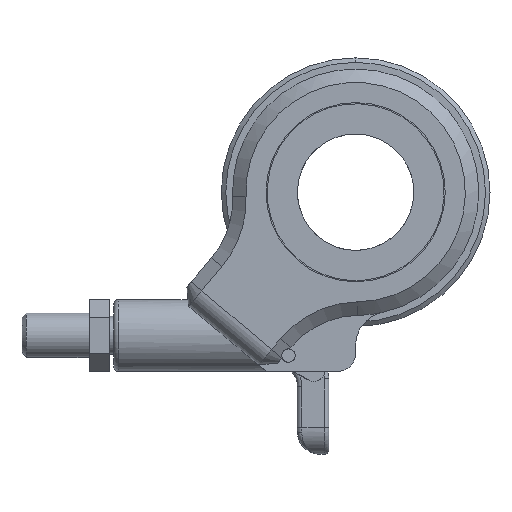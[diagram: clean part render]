
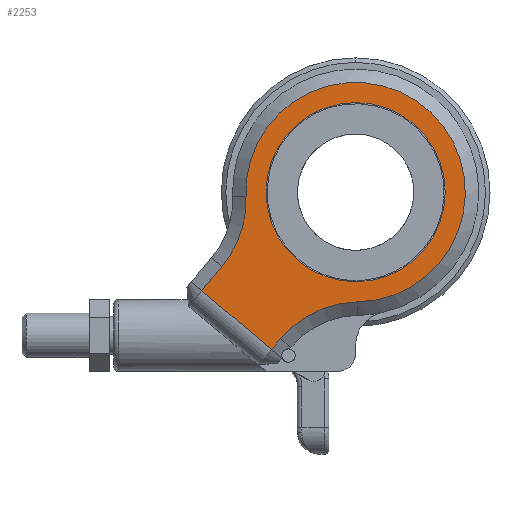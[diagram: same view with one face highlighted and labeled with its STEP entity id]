
A CAD part, left-side view. The second image highlights one B-rep face of the part: STEP entity #2253.
In plain terms, the highlighted planar face has unit normal (-1, 0, 0).
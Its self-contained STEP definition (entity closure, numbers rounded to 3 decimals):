
#23 = LINE ( 'NONE', #3081, #447 ) ;
#142 = CIRCLE ( 'NONE', #1907, 20. ) ;
#208 = CARTESIAN_POINT ( 'NONE',  ( -12.5, 34.399, -22. ) ) ;
#264 = ORIENTED_EDGE ( 'NONE', *, *, #2382, .T. ) ;
#296 = VECTOR ( 'NONE', #338, 1000. ) ;
#338 = DIRECTION ( 'NONE',  ( 0., -0.766, -0.643 ) ) ;
#447 = VECTOR ( 'NONE', #2664, 1000. ) ;
#473 = VERTEX_POINT ( 'NONE', #3960 ) ;
#475 = CARTESIAN_POINT ( 'NONE',  ( -12.5, 47.466, -1.791 ) ) ;
#525 = LINE ( 'NONE', #2069, #4947 ) ;
#554 = VERTEX_POINT ( 'NONE', #2875 ) ;
#662 = DIRECTION ( 'NONE',  ( 0., 0., -1. ) ) ;
#664 = ORIENTED_EDGE ( 'NONE', *, *, #2580, .T. ) ;
#743 = VERTEX_POINT ( 'NONE', #1852 ) ;
#764 = VERTEX_POINT ( 'NONE', #2530 ) ;
#778 = EDGE_CURVE ( 'NONE', #764, #4346, #3100, .T. ) ;
#793 = ORIENTED_EDGE ( 'NONE', *, *, #4961, .T. ) ;
#802 = FACE_OUTER_BOUND ( 'NONE', #2773, .T. ) ;
#977 = ORIENTED_EDGE ( 'NONE', *, *, #778, .T. ) ;
#1075 = DIRECTION ( 'NONE',  ( 0., 0., 1. ) ) ;
#1114 = EDGE_CURVE ( 'NONE', #3155, #2317, #4175, .T. ) ;
#1125 = EDGE_LOOP ( 'NONE', ( #2412, #664 ) ) ;
#1179 = VERTEX_POINT ( 'NONE', #1506 ) ;
#1471 = CARTESIAN_POINT ( 'NONE',  ( -12.5, -0.852, -47.492 ) ) ;
#1506 = CARTESIAN_POINT ( 'NONE',  ( -12.5, 29.847, -16.575 ) ) ;
#1757 = DIRECTION ( 'NONE',  ( 1., 0., 0. ) ) ;
#1852 = CARTESIAN_POINT ( 'NONE',  ( -12.5, 0., 20. ) ) ;
#1894 = DIRECTION ( 'NONE',  ( 0., 0., 1. ) ) ;
#1907 = AXIS2_PLACEMENT_3D ( 'NONE', #4348, #3590, #4002 ) ;
#2069 = CARTESIAN_POINT ( 'NONE',  ( -12.5, 16.767, -32.708 ) ) ;
#2080 = DIRECTION ( 'NONE',  ( -1., 0., 0. ) ) ;
#2233 = EDGE_CURVE ( 'NONE', #2317, #764, #525, .T. ) ;
#2247 = ORIENTED_EDGE ( 'NONE', *, *, #2275, .T. ) ;
#2253 = ADVANCED_FACE ( 'NONE', ( #4738, #802 ), #2400, .T. ) ;
#2275 = EDGE_CURVE ( 'NONE', #4346, #554, #4953, .T. ) ;
#2302 = AXIS2_PLACEMENT_3D ( 'NONE', #3987, #2080, #2847 ) ;
#2317 = VERTEX_POINT ( 'NONE', #4199 ) ;
#2382 = EDGE_CURVE ( 'NONE', #1179, #3155, #23, .T. ) ;
#2400 = PLANE ( 'NONE',  #3747 ) ;
#2412 = ORIENTED_EDGE ( 'NONE', *, *, #4847, .T. ) ;
#2431 = ORIENTED_EDGE ( 'NONE', *, *, #2233, .T. ) ;
#2530 = CARTESIAN_POINT ( 'NONE',  ( -12.5, 16.767, -32.708 ) ) ;
#2566 = CARTESIAN_POINT ( 'NONE',  ( -12.5, -0.439, -24.496 ) ) ;
#2580 = EDGE_CURVE ( 'NONE', #743, #473, #142, .T. ) ;
#2622 = CARTESIAN_POINT ( 'NONE',  ( -12.5, 0., 0. ) ) ;
#2664 = DIRECTION ( 'NONE',  ( 0., 0.643, -0.766 ) ) ;
#2773 = EDGE_LOOP ( 'NONE', ( #793, #264, #4778, #2431, #977, #2247 ) ) ;
#2788 = DIRECTION ( 'NONE',  ( -1., 0., 0. ) ) ;
#2801 = CIRCLE ( 'NONE', #3932, 20. ) ;
#2847 = DIRECTION ( 'NONE',  ( 0., 0., 1. ) ) ;
#2875 = CARTESIAN_POINT ( 'NONE',  ( -12.5, 24.483, -0.924 ) ) ;
#2994 = AXIS2_PLACEMENT_3D ( 'NONE', #4252, #3090, #1894 ) ;
#2999 = DIRECTION ( 'NONE',  ( 1., 0., 0. ) ) ;
#3044 = CIRCLE ( 'NONE', #2994, 23. ) ;
#3077 = CARTESIAN_POINT ( 'NONE',  ( -12.5, 16.481, -37.034 ) ) ;
#3081 = CARTESIAN_POINT ( 'NONE',  ( -12.5, 34.399, -22. ) ) ;
#3090 = DIRECTION ( 'NONE',  ( 1., 0., 0. ) ) ;
#3100 = CIRCLE ( 'NONE', #4461, 23. ) ;
#3155 = VERTEX_POINT ( 'NONE', #208 ) ;
#3590 = DIRECTION ( 'NONE',  ( 1., 0., 0. ) ) ;
#3747 = AXIS2_PLACEMENT_3D ( 'NONE', #475, #2788, #4328 ) ;
#3932 = AXIS2_PLACEMENT_3D ( 'NONE', #2622, #1757, #662 ) ;
#3960 = CARTESIAN_POINT ( 'NONE',  ( -12.5, 0., -20. ) ) ;
#3987 = CARTESIAN_POINT ( 'NONE',  ( -12.5, 0., 0. ) ) ;
#4002 = DIRECTION ( 'NONE',  ( 0., 0., -1. ) ) ;
#4175 = LINE ( 'NONE', #3077, #296 ) ;
#4199 = CARTESIAN_POINT ( 'NONE',  ( -12.5, 18.779, -35.106 ) ) ;
#4252 = CARTESIAN_POINT ( 'NONE',  ( -12.5, 47.466, -1.791 ) ) ;
#4276 = DIRECTION ( 'NONE',  ( 0., -0.643, 0.766 ) ) ;
#4328 = DIRECTION ( 'NONE',  ( 0., 0., 1. ) ) ;
#4346 = VERTEX_POINT ( 'NONE', #2566 ) ;
#4348 = CARTESIAN_POINT ( 'NONE',  ( -12.5, 0., 0. ) ) ;
#4461 = AXIS2_PLACEMENT_3D ( 'NONE', #1471, #2999, #1075 ) ;
#4738 = FACE_BOUND ( 'NONE', #1125, .T. ) ;
#4778 = ORIENTED_EDGE ( 'NONE', *, *, #1114, .T. ) ;
#4847 = EDGE_CURVE ( 'NONE', #473, #743, #2801, .T. ) ;
#4947 = VECTOR ( 'NONE', #4276, 1000. ) ;
#4953 = CIRCLE ( 'NONE', #2302, 24.5 ) ;
#4961 = EDGE_CURVE ( 'NONE', #554, #1179, #3044, .T. ) ;
